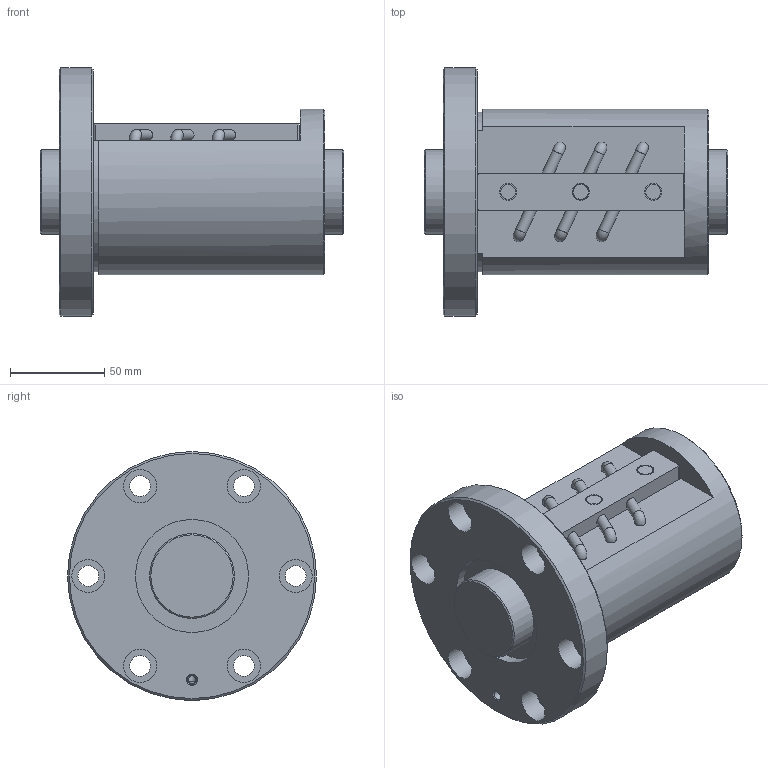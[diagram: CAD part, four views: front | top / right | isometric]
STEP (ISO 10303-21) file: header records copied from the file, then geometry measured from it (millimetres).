
FILE_DESCRIPTION(/* description */ ('STEP AP203'),/* implementation_level */ '2;1');
FILE_NAME(/* name */ 'BNF4510V-7.5RRG1+161LC0_000_rev',/* time_stamp */ '2024-08-06T08:55:03+02:00',/* author */ ('License CC BY-ND 4.0'),/* organization */ ('CADENAS'),/* preprocessor_version */ 'ST-DEVELOPER v19.3',/* originating_system */ 'PARTsolutions',/* authorisation */ ' ');
FILE_SCHEMA (('CONFIG_CONTROL_DESIGN'));
Length unit declared in the file: millimetre
Products named in the file (3): BNF4510V-7.5RRG1+161LC0_000_rev; BNF 4510-7.5RR000 Shaft; BNF 4510-7.5RR Nut
Assembly tree (2 placements, depth 2):
  BNF4510V-7.5RRG1+161LC0_000_rev
    BNF 4510-7.5RR000 Shaft
    BNF 4510-7.5RR Nut
Bounding box: 161 x 132 x 132 mm (x, y, z)
Volume: 923910.4 mm3; surface area: 121327.1 mm2
Topology: 2 solids, 2 shells, 84 faces, 194 edges, 128 vertices
Faces by surface type: cylinder 41, plane 30, cone 7, torus 6
Full cylindrical faces by diameter (mm): 4.5 x2, 4.917 x1, 5.865 x6, 8 x3, 9 x3, 11 x6, 17.5 x6, 45 x2, 60 x2, 88 x1, 132 x1
Entity records: 2173 total; most frequent: CARTESIAN_POINT 383, DIRECTION 382, ORIENTED_EDGE 252, AXIS2_PLACEMENT_3D 177, EDGE_LOOP 174, FACE_BOUND 174, EDGE_CURVE 126, VERTEX_POINT 108
